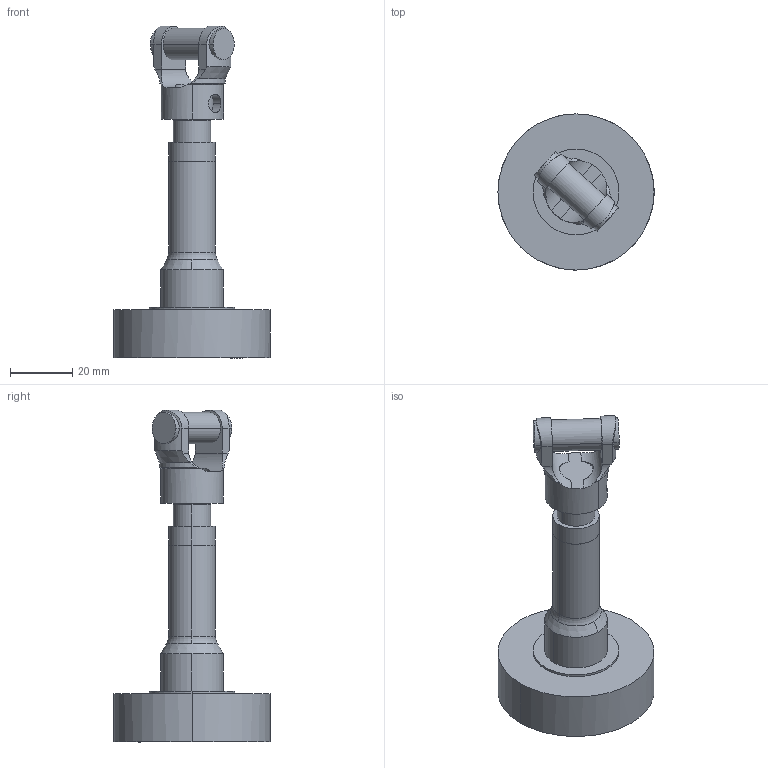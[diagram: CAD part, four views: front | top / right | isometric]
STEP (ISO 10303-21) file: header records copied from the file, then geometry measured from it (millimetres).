
FILE_DESCRIPTION (( 'STEP AP214' ), '1' );
FILE_NAME ('IRB360_8-1130-STD-4D_rev03_RevoluteLinkPlate_CAD.step', '2025-01-14T07:06:19', ( '' ), ( '' ), 'SwSTEP 2.0', 'SolidWorks 2022', '' );
FILE_SCHEMA (( 'AUTOMOTIVE_DESIGN' ));
Length unit declared in the file: millimetre
Products named in the file (1): IRB360_8-1130-STD-4D_rev03_RevoluteLinkPlate_CAD
Bounding box: 50 x 50 x 106.3 mm (x, y, z)
Volume: 45962.8 mm3; surface area: 12923.1 mm2
Topology: 1 solids, 1 shells, 101 faces, 236 edges, 152 vertices
Faces by surface type: cylinder 54, plane 25, cone 18, torus 4
Entity records: 3963 total; most frequent: CARTESIAN_POINT 1024, DIRECTION 505, ORIENTED_EDGE 472, EDGE_CURVE 236, AXIS2_PLACEMENT_3D 211, VERTEX_POINT 152, EDGE_LOOP 118, CIRCLE 109
